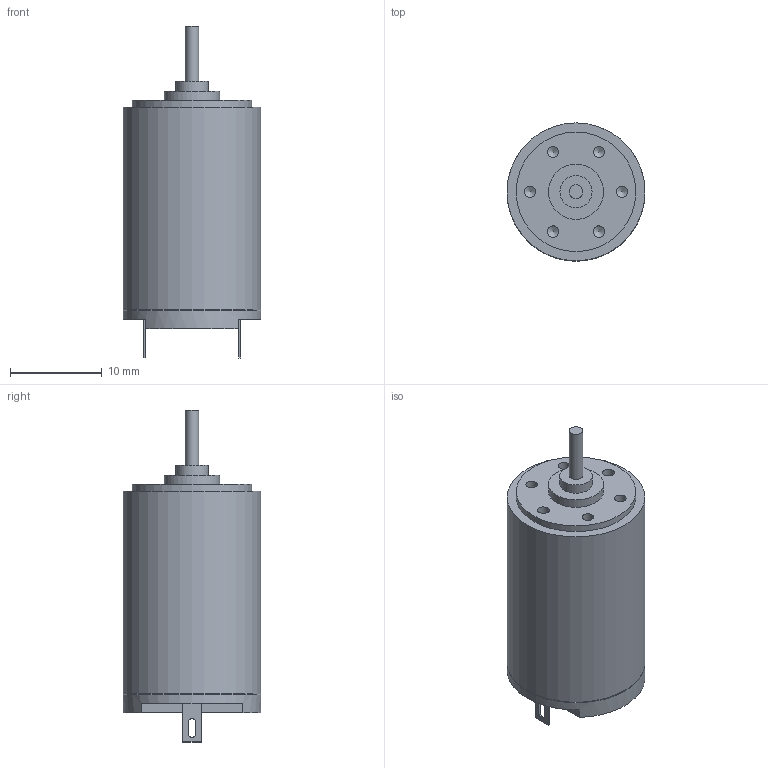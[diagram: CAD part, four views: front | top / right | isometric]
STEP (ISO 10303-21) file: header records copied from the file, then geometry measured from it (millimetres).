
FILE_DESCRIPTION(/* description */ (''),/* implementation_level */ '2;1');
FILE_NAME(/* name */ '1524TSR.stp',/* time_stamp */ '2011-12-21T23:00:10+06:00',/* author */ (''),/* organization */ (''),/* preprocessor_version */ 'ST-DEVELOPER v11',/* originating_system */ 'SIEMENS PLM Software NX 7.5',/* authorisation */ '');
FILE_SCHEMA (('CONFIG_CONTROL_DESIGN'));
Length unit declared in the file: millimetre
Products named in the file (1): 1524TSR
Bounding box: 15 x 15 x 36.1 mm (x, y, z)
Volume: 4348.3 mm3; surface area: 1661.4 mm2
Topology: 1 solids, 1 shells, 48 faces, 117 edges, 77 vertices
Faces by surface type: plane 24, cylinder 16, cone 8
Full cylindrical faces by diameter (mm): 1.25 x6, 1.5 x1, 3.5 x1, 6 x1, 13 x1, 15 x2
Entity records: 1314 total; most frequent: DIRECTION 218, CARTESIAN_POINT 203, ORIENTED_EDGE 168, AXIS2_PLACEMENT_3D 85, EDGE_CURVE 84, EDGE_LOOP 78, VERTEX_POINT 70, FACE_BOUND 66
